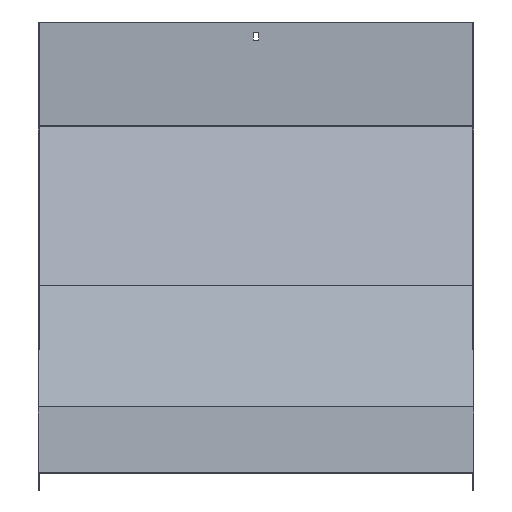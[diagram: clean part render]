
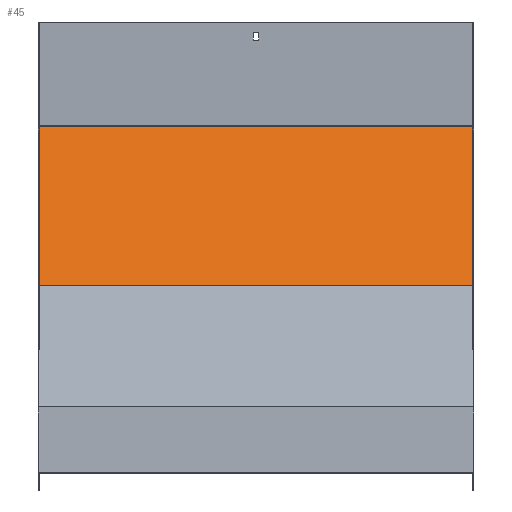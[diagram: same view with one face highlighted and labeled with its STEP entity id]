
A CAD part, top view. The second image highlights one B-rep face of the part: STEP entity #45.
In plain terms, the highlighted planar face has unit normal (0, 0.383, 0.924).
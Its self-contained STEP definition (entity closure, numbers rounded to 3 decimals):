
#41 = EDGE_CURVE ( 'NONE', #905, #658, #672, .T. ) ;
#45 = ADVANCED_FACE ( 'NONE', ( #65 ), #767, .T. ) ;
#58 = EDGE_CURVE ( 'NONE', #800, #658, #413, .T. ) ;
#65 = FACE_OUTER_BOUND ( 'NONE', #840, .T. ) ;
#71 = VECTOR ( 'NONE', #708, 1000. ) ;
#116 = EDGE_CURVE ( 'NONE', #566, #800, #165, .T. ) ;
#165 = LINE ( 'NONE', #338, #71 ) ;
#178 = CARTESIAN_POINT ( 'NONE',  ( -251.5, 400.72, -520.72 ) ) ;
#218 = ORIENTED_EDGE ( 'NONE', *, *, #41, .F. ) ;
#308 = ORIENTED_EDGE ( 'NONE', *, *, #58, .T. ) ;
#334 = CARTESIAN_POINT ( 'NONE',  ( 251.5, 216.868, -444.566 ) ) ;
#338 = CARTESIAN_POINT ( 'NONE',  ( 251.5, 216.868, -444.566 ) ) ;
#342 = AXIS2_PLACEMENT_3D ( 'NONE', #334, #1099, #1025 ) ;
#398 = VECTOR ( 'NONE', #855, 1000. ) ;
#408 = CARTESIAN_POINT ( 'NONE',  ( 251.5, 400.72, -520.72 ) ) ;
#413 = LINE ( 'NONE', #408, #1041 ) ;
#425 = CARTESIAN_POINT ( 'NONE',  ( -251.5, 216.868, -444.566 ) ) ;
#566 = VERTEX_POINT ( 'NONE', #1103 ) ;
#580 = LINE ( 'NONE', #943, #784 ) ;
#602 = ORIENTED_EDGE ( 'NONE', *, *, #1052, .F. ) ;
#658 = VERTEX_POINT ( 'NONE', #178 ) ;
#672 = LINE ( 'NONE', #762, #398 ) ;
#708 = DIRECTION ( 'NONE',  ( 0., 0.924, -0.383 ) ) ;
#762 = CARTESIAN_POINT ( 'NONE',  ( -251.5, 216.868, -444.566 ) ) ;
#767 = PLANE ( 'NONE',  #342 ) ;
#784 = VECTOR ( 'NONE', #1098, 1000. ) ;
#800 = VERTEX_POINT ( 'NONE', #1101 ) ;
#817 = ORIENTED_EDGE ( 'NONE', *, *, #116, .T. ) ;
#840 = EDGE_LOOP ( 'NONE', ( #218, #602, #817, #308 ) ) ;
#855 = DIRECTION ( 'NONE',  ( 0., 0.924, -0.383 ) ) ;
#905 = VERTEX_POINT ( 'NONE', #425 ) ;
#943 = CARTESIAN_POINT ( 'NONE',  ( 251.5, 216.868, -444.566 ) ) ;
#1021 = DIRECTION ( 'NONE',  ( -1., 0., 0. ) ) ;
#1025 = DIRECTION ( 'NONE',  ( 0., -0.924, 0.383 ) ) ;
#1041 = VECTOR ( 'NONE', #1021, 1000. ) ;
#1052 = EDGE_CURVE ( 'NONE', #566, #905, #580, .T. ) ;
#1098 = DIRECTION ( 'NONE',  ( -1., 0., 0. ) ) ;
#1099 = DIRECTION ( 'NONE',  ( 0., 0.383, 0.924 ) ) ;
#1101 = CARTESIAN_POINT ( 'NONE',  ( 251.5, 400.72, -520.72 ) ) ;
#1103 = CARTESIAN_POINT ( 'NONE',  ( 251.5, 216.868, -444.566 ) ) ;
